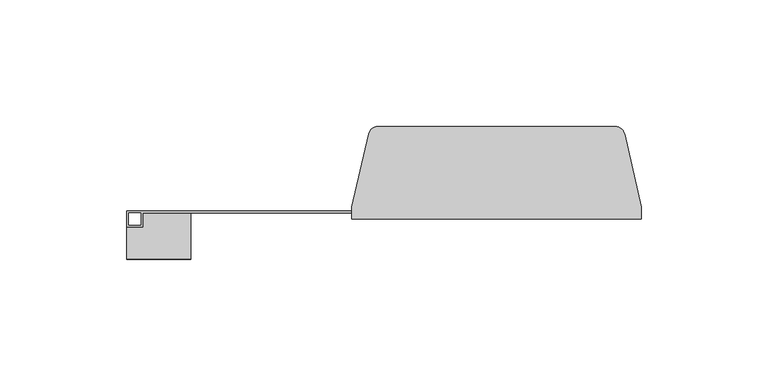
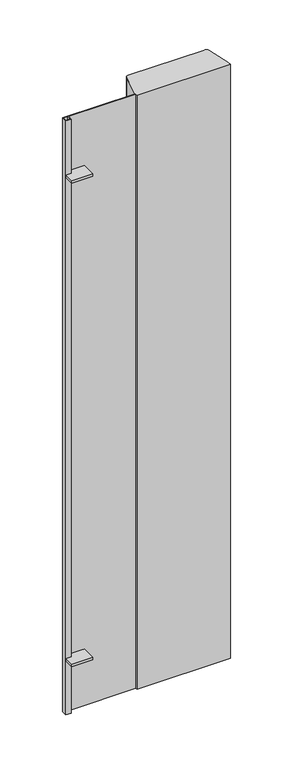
"""IFC4 building model written with IfcOpenShell, lengths in millimetres: furniture geometry, HermanMiller_Carts_CT710_LockBarRight : 42H Cart Lft Side Lock Keyed Alike."""

import ifcopenshell
import ifcopenshell.guid

model = None  # the IFC model being written
_history = None  # IfcOwnerHistory: only IFC2X3 demands one
_inside = {}  # id of a spatial element -> (the spatial element, [elements in it])
_under = {}  # id of a project, library or spatial element -> (it, [spatial elements below it])
_declared = {}  # id of a project -> (the project, [libraries it declares])
_typed = {}  # id of a type object -> (the type object, [elements of that type])
_made_of = {}  # id of a material, layer set ... -> (it, [elements and type objects made of it])


def new_model(schema):
    """Start an empty IFC model of exactly this schema.

    Asked for "IFC4X3", IfcOpenShell would pick the latest addendum, in which some entities
    have other attributes; the version numbers below select the first issue.
    IFC2X3 requires an IfcOwnerHistory on every rooted entity: one is made here for all.
    """
    global model, _history
    if schema == "IFC4X3":
        model = ifcopenshell.file(schema_version=(4, 3, 0, 0))
    else:
        model = ifcopenshell.file(schema=schema)
    _inside.clear()
    _under.clear()
    _declared.clear()
    _typed.clear()
    _made_of.clear()
    _history = None
    if model.schema == "IFC2X3":
        org = make("IfcOrganization", Name="unknown")
        user = make(
            "IfcPersonAndOrganization",
            ThePerson=make("IfcPerson", FamilyName="unknown"),
            TheOrganization=org,
        )
        app = make(
            "IfcApplication",
            ApplicationDeveloper=org,
            Version="unknown",
            ApplicationFullName="unknown",
            ApplicationIdentifier="unknown",
        )
        _history = make(
            "IfcOwnerHistory",
            OwningUser=user,
            OwningApplication=app,
            ChangeAction="ADDED",
            CreationDate=0,
        )
    return model


def make(cls, **values):
    """One entity of the class cls with the attributes given. An attribute that is None is left unset."""
    return model.create_entity(
        cls, **{name: value for name, value in values.items() if value is not None}
    )


def rooted(cls, **values):
    """An entity with a GlobalId (a new one), such as an element, a storey or a relation."""
    return make(cls, GlobalId=ifcopenshell.guid.new(), OwnerHistory=_history, **values)


def si_unit(unit_type, name, prefix=None):
    """IfcSIUnit, for example si_unit("LENGTHUNIT", "METRE", prefix="MILLI")."""
    return make("IfcSIUnit", UnitType=unit_type, Prefix=prefix, Name=name)


def assignment(units):
    """IfcUnitAssignment: the units of a project."""
    return None if units is None else make("IfcUnitAssignment", Units=units)


def point(xyz):
    """IfcCartesianPoint."""
    return None if xyz is None else make("IfcCartesianPoint", Coordinates=xyz)


def direction(xyz):
    """IfcDirection."""
    return None if xyz is None else make("IfcDirection", DirectionRatios=xyz)


def frame(location, z_axis=None, x_axis=None):
    """IfcAxis2Placement3D, a coordinate frame: its origin and axes. An axis left out is left unset."""
    return make(
        "IfcAxis2Placement3D",
        Location=point(location),
        Axis=direction(z_axis),
        RefDirection=direction(x_axis),
    )


def frame_2d(location, x_axis=None):
    """IfcAxis2Placement2D, a coordinate frame in the plane: its origin and x axis."""
    return make(
        "IfcAxis2Placement2D", Location=point(location), RefDirection=direction(x_axis)
    )


def origin():
    """The frame at (0, 0, 0) with its axes left unset."""
    return frame((0.0, 0.0, 0.0))


def place(relative_to, where):
    """IfcLocalPlacement: puts the frame where relative to a parent placement (None: the world)."""
    return make(
        "IfcLocalPlacement", PlacementRelTo=relative_to, RelativePlacement=where
    )


def context(
    kind, dimensions, precision=None, world=None, true_north=None, identifier=None
):
    """IfcGeometricRepresentationContext, for example the 3D "Model" context."""
    return make(
        "IfcGeometricRepresentationContext",
        ContextIdentifier=identifier,
        ContextType=kind,
        CoordinateSpaceDimension=dimensions,
        Precision=precision,
        WorldCoordinateSystem=world,
        TrueNorth=true_north,
    )


def project(units=None, contexts=None):
    """IfcProject with its units and contexts."""
    return rooted(
        "IfcProject",
        Name="project",
        RepresentationContexts=contexts,
        UnitsInContext=assignment(units),
    )


def spatial(cls, under=None, at=None, **own):
    """A site, building, storey or space (cls), placed at a placement, below another one or the project."""
    s = rooted(cls, ObjectPlacement=at, **own)
    if under is not None:
        _under.setdefault(under.id(), (under, []))[1].append(s)
    return s


def polyline(points):
    """IfcPolyline through the points."""
    return make("IfcPolyline", Points=[point(p) for p in points])


def circle_curve(where, radius):
    """IfcCircle in the frame where."""
    return make("IfcCircle", Position=where, Radius=radius)


def trimmed(basis, trim1, trim2, sense, master):
    """IfcTrimmedCurve: the piece of a basis curve between two trims."""
    return make(
        "IfcTrimmedCurve",
        BasisCurve=basis,
        Trim1=trim1,
        Trim2=trim2,
        SenseAgreement=sense,
        MasterRepresentation=master,
    )


def segment(curve, same_sense, transition):
    """IfcCompositeCurveSegment."""
    return make(
        "IfcCompositeCurveSegment",
        Transition=transition,
        SameSense=same_sense,
        ParentCurve=curve,
    )


def composite_curve(segments, self_intersect=None):
    """IfcCompositeCurve: segments joined end to end."""
    return make("IfcCompositeCurve", Segments=segments, SelfIntersect=self_intersect)


def outline(outer, holes=None, kind="AREA"):
    """IfcArbitraryClosedProfileDef: a profile drawn as a closed curve; with holes, ...WithVoids."""
    if holes is None:
        return make("IfcArbitraryClosedProfileDef", ProfileType=kind, OuterCurve=outer)
    return make(
        "IfcArbitraryProfileDefWithVoids",
        ProfileType=kind,
        OuterCurve=outer,
        InnerCurves=holes,
    )


def extrude(swept, where, along, depth):
    """IfcExtrudedAreaSolid: the profile swept, set in the frame where, extruded along a direction by depth."""
    return make(
        "IfcExtrudedAreaSolid",
        SweptArea=swept,
        Position=where,
        ExtrudedDirection=direction(along),
        Depth=depth,
    )


def shape(context_of_items, identifier, shape_type, items):
    """IfcShapeRepresentation: the items that make up one representation, for example the "Body"."""
    return make(
        "IfcShapeRepresentation",
        ContextOfItems=context_of_items,
        RepresentationIdentifier=identifier,
        RepresentationType=shape_type,
        Items=items,
    )


def source(mapping_origin, context_of_items, identifier, shape_type, items):
    """IfcRepresentationMap: a shape defined once, which mapped items show again and again."""
    return make(
        "IfcRepresentationMap",
        MappingOrigin=mapping_origin,
        MappedRepresentation=shape(context_of_items, identifier, shape_type, items),
    )


def transform(
    local_origin,
    x_axis=None,
    y_axis=None,
    z_axis=None,
    scale=None,
    scale2=None,
    scale3=None,
    uniform=True,
):
    """IfcCartesianTransformationOperator3D, or its non-uniform kind. x_axis, y_axis, z_axis: its Axis1, 2, 3."""
    if uniform:
        return make(
            "IfcCartesianTransformationOperator3D",
            Axis1=direction(x_axis),
            Axis2=direction(y_axis),
            LocalOrigin=point(local_origin),
            Scale=scale,
            Axis3=direction(z_axis),
        )
    return make(
        "IfcCartesianTransformationOperator3DnonUniform",
        Axis1=direction(x_axis),
        Axis2=direction(y_axis),
        LocalOrigin=point(local_origin),
        Scale=scale,
        Axis3=direction(z_axis),
        Scale2=scale2,
        Scale3=scale3,
    )


def mapped(mapping_source, mapping_target):
    """IfcMappedItem: shows the shape of a source again, moved by a transform."""
    return make(
        "IfcMappedItem", MappingSource=mapping_source, MappingTarget=mapping_target
    )


def made_of(thing, what):
    """Note that an element or type object is made of a material, layer set ...; save() writes the relation."""
    if what is not None:
        _made_of.setdefault(what.id(), (what, []))[1].append(thing)
    return thing


def element(
    cls,
    number,
    at=None,
    inside=None,
    cuts=None,
    type_object=None,
    material=None,
    context=None,
    identifier="Body",
    shape_type=None,
    held_by="IfcProductDefinitionShape",
    body=None,
    shapes=None,
    **own,
):
    """One element of the class cls, such as IfcWall. Its Tag is "e" and its number.

    at: its placement. inside: the storey or other place that contains it. cuts: it is an
    opening in that element (IfcRelVoidsElement). A single representation is given by context,
    identifier, shape_type and body (its items); several are given by shapes. held_by: the class
    of the entity that holds the representations. save() writes the other relations.
    """
    e = rooted(cls, Tag="e%d" % number, ObjectPlacement=at, **own)
    if body is not None:
        shapes = [shape(context, identifier, shape_type, body)]
    if shapes is not None:
        e.Representation = make(held_by, Representations=shapes)
    if inside is not None:
        _inside.setdefault(inside.id(), (inside, []))[1].append(e)
    if cuts is not None:
        rooted(
            "IfcRelVoidsElement", RelatingBuildingElement=cuts, RelatedOpeningElement=e
        )
    if type_object is not None:
        _typed.setdefault(type_object.id(), (type_object, []))[1].append(e)
    return made_of(e, material)


def aggregate(whole, parts):
    """IfcRelAggregates: a whole, such as a stair, and the parts it consists of."""
    return rooted("IfcRelAggregates", RelatingObject=whole, RelatedObjects=parts)


def save(model, path):
    """Write the relations noted so far, then the file.

    IfcRelAggregates (storeys below a building ...), IfcRelContainedInSpatialStructure (elements
    in a storey), IfcRelDefinesByType, IfcRelAssociatesMaterial and IfcRelDeclares: one each for
    every whole, place, type object, material and project.
    """
    for whole, parts in _under.values():
        aggregate(whole, parts)
    for where, things in _inside.values():
        rooted(
            "IfcRelContainedInSpatialStructure",
            RelatedElements=things,
            RelatingStructure=where,
        )
    for kind, things in _typed.values():
        rooted("IfcRelDefinesByType", RelatedObjects=things, RelatingType=kind)
    for what, things in _made_of.values():
        rooted("IfcRelAssociatesMaterial", RelatedObjects=things, RelatingMaterial=what)
    for by, libraries in _declared.values():
        rooted("IfcRelDeclares", RelatingContext=by, RelatedDefinitions=libraries)
    model.write(path)


def furniture_cd2bd026(model_context):
    return source(origin(), model_context, "Body", "SweptSolid", [
        extrude(outline(composite_curve([segment(trimmed(circle_curve(frame_2d((-345.4317003, -3.9497)), 3.9624), [point((-345.4317003, 0.0127))], [point((-341.5708564, -3.0583539))], False, "CARTESIAN"), True, "CONTINUOUS"), segment(polyline([(-341.5708564, -3.0583539), (-334.9498, -31.7373), (-334.9498, -36.5125), (-449.2498, -36.5125), (-449.2498, -31.7373), (-442.6287436, -3.0583539)]), True, "CONTINUOUS"), segment(trimmed(circle_curve(frame_2d((-438.7678997, -3.9497)), 3.9624), [point((-442.6287436, -3.0583539))], [point((-438.7678997, 0.0127))], False, "CARTESIAN"), True, "CONTINUOUS"), segment(polyline([(-438.7678997, 0.0127), (-345.4317003, 0.0127)]), True, "CONTINUOUS")], self_intersect=False)), frame((0.0, 0.0, 1035.05), z_axis=(0.0, 0.0, 1.0), x_axis=(1.0, 0.0, 0.0)), (0.0, 0.0, 1.0), 768.35),
        extrude(outline(polyline([(-531.7998, -34.1452298), (-531.7998, -39.6875), (-538.1498, -39.6875), (-538.1498, -33.3375), (-449.2498, -33.3375), (-449.2498, -34.1452298), (-531.7998, -34.1452298)]), holes=[polyline([(-532.6247447, -38.8797702), (-532.6247447, -34.1452298), (-537.3248553, -34.1452298), (-537.3248553, -38.8797702), (-532.6247447, -38.8797702)])]), frame((0.0, 0.0, 1035.05), z_axis=(0.0, 0.0, 1.0), x_axis=(1.0, 0.0, 0.0)), (0.0, 0.0, 1.0), 768.35),
        extrude(outline(polyline([(-512.7498, -52.3875), (-538.1498, -52.3875), (-538.1498, -39.6875), (-531.7998, -39.6875), (-531.7998, -34.1452298), (-512.7498, -34.1452298), (-512.7498, -52.3875)])), frame((0.0, 0.0, 1730.375), z_axis=(0.0, 0.0, 1.0), x_axis=(1.0, 0.0, 0.0)), (0.0, 0.0, 1.0), 3.175),
        extrude(outline(polyline([(-512.7498, -52.3875), (-538.1498, -52.3875), (-538.1498, -39.6875), (-531.7998, -39.6875), (-531.7998, -34.1452298), (-512.7498, -34.1452298), (-512.7498, -52.3875)])), frame((0.0, 0.0, 1104.9), z_axis=(0.0, 0.0, 1.0), x_axis=(1.0, 0.0, 0.0)), (0.0, 0.0, 1.0), 3.175),
    ])


if __name__ == "__main__":
    model = new_model("IFC4")
    model_context = context("Model", 3, world=origin())
    ifc_project = project(units=[si_unit("LENGTHUNIT", "METRE", prefix="MILLI")], contexts=[model_context])
    site = spatial("IfcSite", under=ifc_project)
    building = spatial("IfcBuilding", under=site)
    placement = place(None, origin())
    furniture_shape = furniture_cd2bd026(model_context)
    element("IfcFurniture", 1, ObjectType="HermanMiller_Carts_CT710_LockBarRight : 42H Cart Lft Side Lock Keyed Alike", at=placement, inside=building, context=model_context, shape_type="MappedRepresentation", body=[
        mapped(furniture_shape, transform((0.0, 0.0, 0.0), x_axis=(1.0, 0.0, 0.0), y_axis=(0.0, 1.0, 0.0), z_axis=(0.0, 0.0, 1.0))),
    ])
    save(model, "model.ifc")
